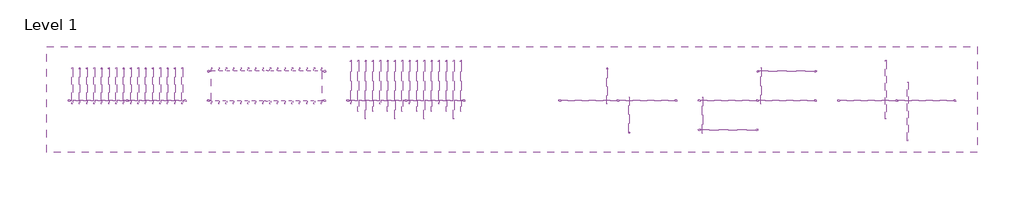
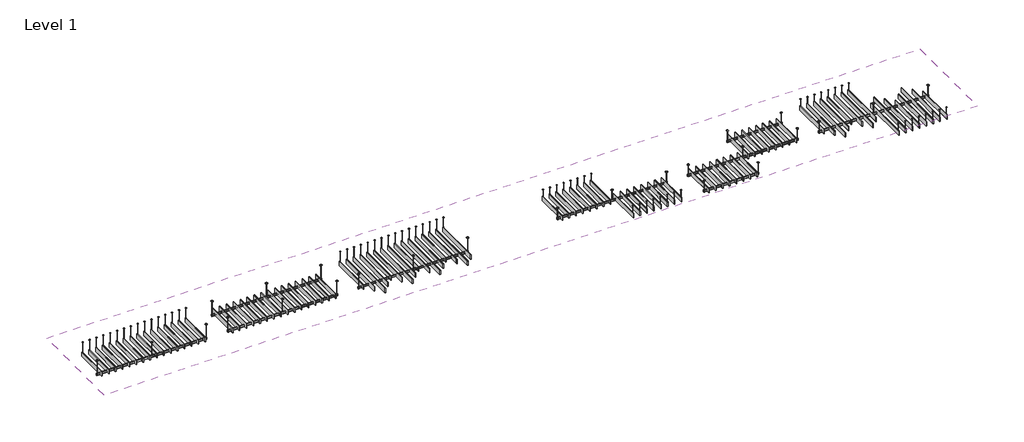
# One storey: 14 light fixtures, 1 covering.
"""IFC4 building model written with IfcOpenShell, lengths in millimetres."""

from ifc_helpers import new_model, si_unit, frame, origin, place, context, project, spatial, polyline, outline, extrude, transform, mapped, element, save
from components import light_fixture_dba813e0, light_fixture_4ed38560, light_fixture_df12a1cc, light_fixture_c6dd3775, light_fixture_7f1f590e, light_fixture_2e790f0c, light_fixture_63af7253, aircore_bridge_cantilever_wave_baffles_63261213, baffles_focal_point_aircore_bridge_truss_aircore_bridge_58644e4d, baffles_point_aircore_bridge_cantilever_aircore_bridge_8e100021

model = new_model("IFC4")

# Units and contexts
model_context = context("Model", 3, world=origin())
ifc_project = project(units=[si_unit("LENGTHUNIT", "METRE", prefix="MILLI")], contexts=[model_context])

# Site, building, storey
site = spatial("IfcSite", under=ifc_project)
building = spatial("IfcBuilding", under=site)
storey = spatial("IfcBuildingStorey", under=building, Name="Level 1", Elevation=0.0)

# Covering
placement = place(None, origin())
element("IfcCovering", 1, ObjectType="GWB on Mtl. Stud", at=placement, inside=storey, context=model_context, shape_type="SweptSolid", body=[
    extrude(outline(polyline([(38274.7034749, 4419.7529379), (38274.7034749, 0.1529379), (-405.3582005, 0.1529379), (-405.3582005, 4419.7529379), (38274.7034749, 4419.7529379)])), frame((0.0, 0.0, 2438.4), z_axis=(0.0, 0.0, 1.0), x_axis=(1.0, 0.0, 0.0)), (0.0, 0.0, 1.0), 107.95),
])

# Light fixtures
light_fixture_shape = light_fixture_dba813e0(model_context)
element("IfcLightFixture", 2, ObjectType="Lighting_Fixture-Focal_Point-AirCore_Bridge-Truss-Seem_1_LED : FSM1SBW125LF30K1CUNVLD1J24_", at=placement, inside=storey, context=model_context, shape_type="MappedRepresentation", body=[
    mapped(light_fixture_shape, transform((8738.6417995, 2164.4779902, 2438.4), x_axis=(1.0, 0.0, 0.0), y_axis=(0.0, -1.0, 0.0), z_axis=(0.0, 0.0, -1.0))),
])
light_fixture_2_shape = light_fixture_4ed38560(model_context)
light_fixture_3_shape = light_fixture_df12a1cc(model_context)
element("IfcLightFixture", 3, ObjectType="Lighting_Fixture-Focal_Point-AirCore_Bridge-Cantilever_Wave-Seem_1_LED : FSM1SBW125LF30K1CUNVLD1J24_", at=placement, inside=storey, context=model_context, shape_type="MappedRepresentation", body=[
    mapped(light_fixture_2_shape, transform((14529.8417995, 2164.4779902, 2438.4), x_axis=(1.0, 0.0, 0.0), y_axis=(0.0, -1.0, 0.0), z_axis=(0.0, 0.0, -1.0))),
    mapped(light_fixture_3_shape, transform((14529.8417995, 2164.4779902, 2438.4), x_axis=(1.0, 0.0, 0.0), y_axis=(0.0, -1.0, 0.0), z_axis=(0.0, 0.0, -1.0))),
])
light_fixture_4_shape = light_fixture_c6dd3775(model_context)
light_fixture_5_shape = light_fixture_7f1f590e(model_context)
element("IfcLightFixture", 4, ObjectType="Lighting_Fixture-Focal_Point-AirCore_Bridge-Cantilever-Seem_1_LED : FSM1SBW125LF30K1CUNVLD1J24_", at=placement, inside=storey, context=model_context, shape_type="MappedRepresentation", body=[
    mapped(light_fixture_4_shape, transform((2947.4417995, 2164.4779902, 2438.4), x_axis=(1.0, 0.0, 0.0), y_axis=(0.0, -1.0, 0.0), z_axis=(0.0, 0.0, -1.0))),
    mapped(light_fixture_5_shape, transform((2947.4417995, 2164.4779902, 2438.4), x_axis=(1.0, 0.0, 0.0), y_axis=(0.0, -1.0, 0.0), z_axis=(0.0, 0.0, -1.0))),
])
light_fixture_6_shape = light_fixture_2e790f0c(model_context)
element("IfcLightFixture", 5, ObjectType="Lighting_Fixture-Focal_Point-AirCore_Bridge-Seem_1_LED : FSM1SBW125LF30K1CUNVLD1J24_", at=placement, inside=storey, context=model_context, shape_type="MappedRepresentation", body=[
    mapped(light_fixture_6_shape, transform((23338.8229301, 2164.4779902, 2438.4), x_axis=(1.0, 0.0, 0.0), y_axis=(0.0, -1.0, 0.0), z_axis=(0.0, 0.0, -1.0))),
])
element("IfcLightFixture", 6, ObjectType="Lighting_Fixture-Focal_Point-AirCore_Bridge-Seem_1_LED : FSM1SBW125LF30K1CUNVLD1J24_", at=placement, inside=storey, context=model_context, shape_type="MappedRepresentation", body=[
    mapped(light_fixture_6_shape, transform((34921.9034749, 2164.4779902, 2438.4), x_axis=(1.0, 0.0, 0.0), y_axis=(0.0, -1.0, 0.0), z_axis=(0.0, 0.0, -1.0))),
])
element("IfcLightFixture", 7, ObjectType="Lighting_Fixture-Focal_Point-AirCore_Bridge-Seem_1_LED : FSM1SBW125LF30K1CUNVLD1J24_", at=placement, inside=storey, context=model_context, shape_type="MappedRepresentation", body=[
    mapped(light_fixture_6_shape, transform((29130.0229301, 2164.4779902, 2438.4), x_axis=(1.0, 0.0, 0.0), y_axis=(0.0, -1.0, 0.0), z_axis=(0.0, 0.0, -1.0))),
])
light_fixture_7_shape = light_fixture_63af7253(model_context)
element("IfcLightFixture", 8, ObjectType="Lighting_Fixture-Focal_Point-AirCore_Bridge-Seem_1_LED : FSM1SBW125LF30K1CUNVLD1J24_", at=placement, inside=storey, context=model_context, shape_type="MappedRepresentation", body=[
    mapped(light_fixture_7_shape, transform((30349.2229301, 3383.6779902, 2438.4), x_axis=(1.0, 0.0, 0.0), y_axis=(0.0, -1.0, 0.0), z_axis=(0.0, 0.0, -1.0))),
])
element("IfcLightFixture", 9, ObjectType="Lighting_Fixture-Focal_Point-AirCore_Bridge-Seem_1_LED : FSM1SBW125LF30K1CUNVLD1J24_", at=placement, inside=storey, context=model_context, shape_type="MappedRepresentation", body=[
    mapped(light_fixture_7_shape, transform((27910.8229301, 945.2779902, 2438.4), x_axis=(1.0, 0.0, 0.0), y_axis=(0.0, -1.0, 0.0), z_axis=(0.0, 0.0, -1.0))),
])
aircore_bridge_cantilever_wave_baffles_shape = aircore_bridge_cantilever_wave_baffles_63261213(model_context)
element("IfcLightFixture", 10, ObjectType="Baffles_Fixture-Focal_Point-AirCore_Bridge-Cantilever_Wave : AirCore Bridge - Cantilever Wave - Baffles", at=placement, inside=storey, context=model_context, shape_type="MappedRepresentation", body=[
    mapped(aircore_bridge_cantilever_wave_baffles_shape, transform((33702.7034749, 2164.4779902, 2438.4), x_axis=(1.0, 0.0, 0.0), y_axis=(0.0, -1.0, 0.0), z_axis=(0.0, 0.0, -1.0))),
])
element("IfcLightFixture", 11, ObjectType="Baffles_Fixture-Focal_Point-AirCore_Bridge-Cantilever_Wave : AirCore Bridge - Cantilever Wave - Baffles", at=placement, inside=storey, context=model_context, shape_type="MappedRepresentation", body=[
    mapped(aircore_bridge_cantilever_wave_baffles_shape, transform((36141.1034749, 2164.4779902, 2438.4), x_axis=(-1.0, 0.0, 0.0), y_axis=(0.0, 1.0, 0.0), z_axis=(0.0, 0.0, -1.0))),
])
baffles_focal_point_aircore_bridge_truss_aircore_bridge_shape = baffles_focal_point_aircore_bridge_truss_aircore_bridge_58644e4d(model_context)
element("IfcLightFixture", 12, ObjectType="Baffles-Focal_Point-AirCore_Bridge-Truss : AirCore Bridge - Truss - Baffles", at=placement, inside=storey, context=model_context, shape_type="MappedRepresentation", body=[
    mapped(baffles_focal_point_aircore_bridge_truss_aircore_bridge_shape, transform((27910.8229301, 945.2779902, 2438.4), x_axis=(1.0, 0.0, 0.0), y_axis=(0.0, -1.0, 0.0), z_axis=(0.0, 0.0, -1.0))),
])
element("IfcLightFixture", 13, ObjectType="Baffles-Focal_Point-AirCore_Bridge-Truss : AirCore Bridge - Truss - Baffles", at=placement, inside=storey, context=model_context, shape_type="MappedRepresentation", body=[
    mapped(baffles_focal_point_aircore_bridge_truss_aircore_bridge_shape, transform((30349.2229301, 3383.6779902, 2438.4), x_axis=(-1.0, 0.0, 0.0), y_axis=(0.0, 1.0, 0.0), z_axis=(0.0, 0.0, -1.0))),
])
baffles_point_aircore_bridge_cantilever_aircore_bridge_shape = baffles_point_aircore_bridge_cantilever_aircore_bridge_8e100021(model_context)
element("IfcLightFixture", 14, ObjectType="Baffles_Point-AirCore_Bridge-Cantilever : AirCore Bridge - Cantilever - Baffles", at=placement, inside=storey, context=model_context, shape_type="MappedRepresentation", body=[
    mapped(baffles_point_aircore_bridge_cantilever_aircore_bridge_shape, transform((22119.6229301, 2164.4779902, 2438.4), x_axis=(1.0, 0.0, 0.0), y_axis=(0.0, -1.0, 0.0), z_axis=(0.0, 0.0, -1.0))),
])
element("IfcLightFixture", 15, ObjectType="Baffles_Point-AirCore_Bridge-Cantilever : AirCore Bridge - Cantilever - Baffles", at=placement, inside=storey, context=model_context, shape_type="MappedRepresentation", body=[
    mapped(baffles_point_aircore_bridge_cantilever_aircore_bridge_shape, transform((24558.0229301, 2164.4779902, 2438.4), x_axis=(-1.0, 0.0, 0.0), y_axis=(0.0, 1.0, 0.0), z_axis=(0.0, 0.0, -1.0))),
])

save(model, "model.ifc")
